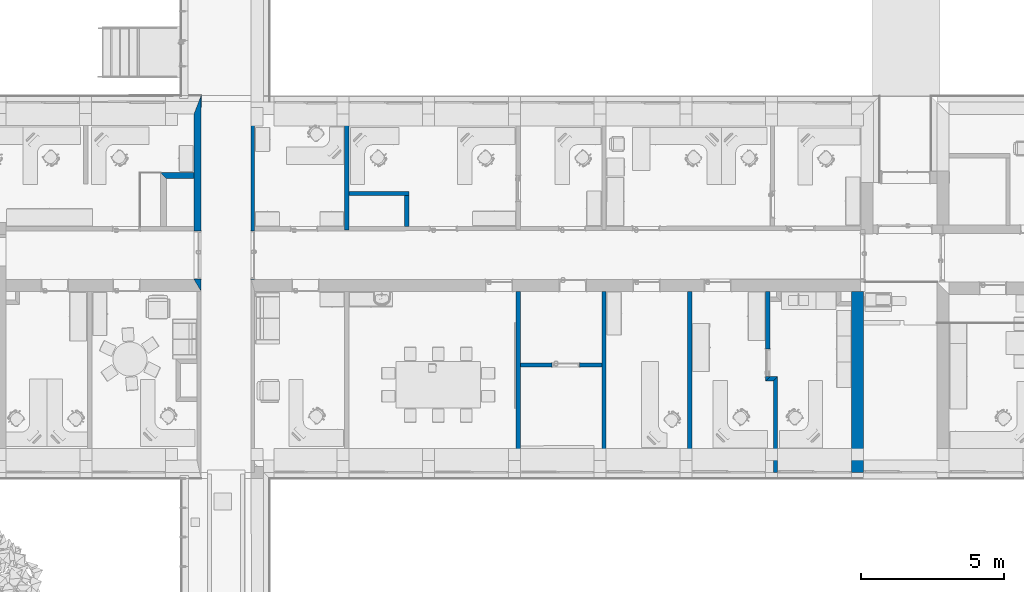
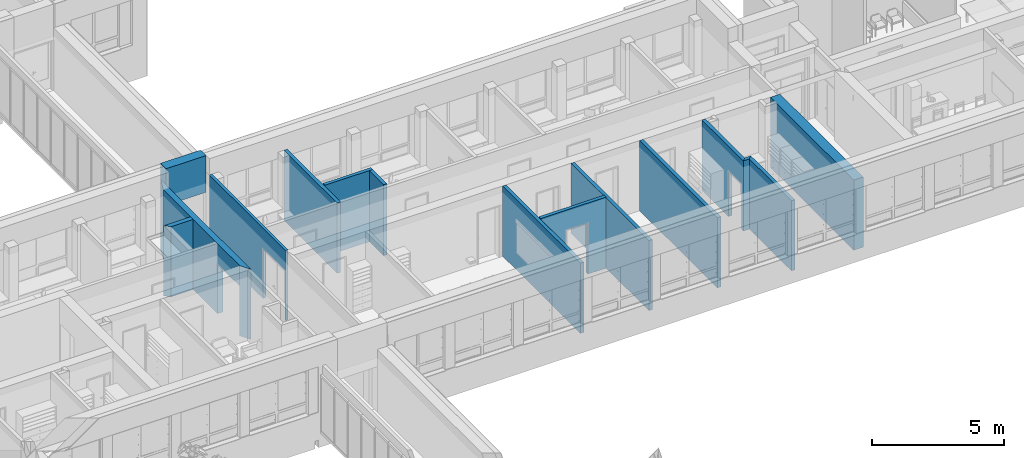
# One storey, part 15 of 194: 15 walls, 5 openings.
"""IFC2X3 building model written with IfcOpenShell, lengths in millimetres."""

import ifcopenshell
import ifcopenshell.guid

model = None  # the IFC model being written
_history = None  # IfcOwnerHistory: only IFC2X3 demands one
_inside = {}  # id of a spatial element -> (the spatial element, [elements in it])
_under = {}  # id of a project, library or spatial element -> (it, [spatial elements below it])
_declared = {}  # id of a project -> (the project, [libraries it declares])
_typed = {}  # id of a type object -> (the type object, [elements of that type])
_made_of = {}  # id of a material, layer set ... -> (it, [elements and type objects made of it])


def new_model(schema):
    """Start an empty IFC model of exactly this schema.

    Asked for "IFC4X3", IfcOpenShell would pick the latest addendum, in which some entities
    have other attributes; the version numbers below select the first issue.
    IFC2X3 requires an IfcOwnerHistory on every rooted entity: one is made here for all.
    """
    global model, _history
    if schema == "IFC4X3":
        model = ifcopenshell.file(schema_version=(4, 3, 0, 0))
    else:
        model = ifcopenshell.file(schema=schema)
    _inside.clear()
    _under.clear()
    _declared.clear()
    _typed.clear()
    _made_of.clear()
    _history = None
    if model.schema == "IFC2X3":
        org = make("IfcOrganization", Name="unknown")
        user = make(
            "IfcPersonAndOrganization",
            ThePerson=make("IfcPerson", FamilyName="unknown"),
            TheOrganization=org,
        )
        app = make(
            "IfcApplication",
            ApplicationDeveloper=org,
            Version="unknown",
            ApplicationFullName="unknown",
            ApplicationIdentifier="unknown",
        )
        _history = make(
            "IfcOwnerHistory",
            OwningUser=user,
            OwningApplication=app,
            ChangeAction="ADDED",
            CreationDate=0,
        )
    return model


def make(cls, **values):
    """One entity of the class cls with the attributes given. An attribute that is None is left unset."""
    return model.create_entity(
        cls, **{name: value for name, value in values.items() if value is not None}
    )


def entity(cls, *values):
    """Any entity or typed value of the class cls, its attributes in the order of the schema. None: left unset."""
    e = model.create_entity(cls)
    for i, value in enumerate(values):
        if value is not None:
            e[i] = value
    return e


def rooted(cls, **values):
    """An entity with a GlobalId (a new one), such as an element, a storey or a relation."""
    return make(cls, GlobalId=ifcopenshell.guid.new(), OwnerHistory=_history, **values)


def si_unit(unit_type, name, prefix=None):
    """IfcSIUnit, for example si_unit("LENGTHUNIT", "METRE", prefix="MILLI")."""
    return make("IfcSIUnit", UnitType=unit_type, Prefix=prefix, Name=name)


def converted_unit(unit_type, name, factor, base, dimensions=None, offset=None):
    """IfcConversionBasedUnit, such as the inch: factor (a typed value) times the base unit."""
    return make(
        "IfcConversionBasedUnit"
        if offset is None
        else "IfcConversionBasedUnitWithOffset",
        ConversionOffset=offset,
        Dimensions=None
        if dimensions is None
        else entity("IfcDimensionalExponents", *dimensions),
        UnitType=unit_type,
        Name=name,
        ConversionFactor=make(
            "IfcMeasureWithUnit", ValueComponent=factor, UnitComponent=base
        ),
    )


def derived_unit(unit_type, elements):
    """IfcDerivedUnit: a product of units, each with its exponent."""
    return make(
        "IfcDerivedUnit",
        Elements=[
            make("IfcDerivedUnitElement", Unit=unit, Exponent=power)
            for unit, power in elements
        ],
        UnitType=unit_type,
    )


def money_unit(currency):
    """IfcMonetaryUnit."""
    return make("IfcMonetaryUnit", Currency=currency)


def assignment(units):
    """IfcUnitAssignment: the units of a project."""
    return None if units is None else make("IfcUnitAssignment", Units=units)


def point(xyz):
    """IfcCartesianPoint."""
    return None if xyz is None else make("IfcCartesianPoint", Coordinates=xyz)


def direction(xyz):
    """IfcDirection."""
    return None if xyz is None else make("IfcDirection", DirectionRatios=xyz)


def frame(location, z_axis=None, x_axis=None):
    """IfcAxis2Placement3D, a coordinate frame: its origin and axes. An axis left out is left unset."""
    return make(
        "IfcAxis2Placement3D",
        Location=point(location),
        Axis=direction(z_axis),
        RefDirection=direction(x_axis),
    )


def frame_2d(location, x_axis=None):
    """IfcAxis2Placement2D, a coordinate frame in the plane: its origin and x axis."""
    return make(
        "IfcAxis2Placement2D", Location=point(location), RefDirection=direction(x_axis)
    )


def origin_with_axes():
    """The frame at (0, 0, 0) with the z axis (0, 0, 1) and the x axis (1, 0, 0) written out."""
    return frame((0.0, 0.0, 0.0), z_axis=(0.0, 0.0, 1.0), x_axis=(1.0, 0.0, 0.0))


def origin_2d_with_axis():
    """The frame at (0, 0) in the plane with the x axis (1, 0) written out."""
    return frame_2d((0.0, 0.0), x_axis=(1.0, 0.0))


def place(relative_to, where):
    """IfcLocalPlacement: puts the frame where relative to a parent placement (None: the world)."""
    return make(
        "IfcLocalPlacement", PlacementRelTo=relative_to, RelativePlacement=where
    )


def context(
    kind, dimensions, precision=None, world=None, true_north=None, identifier=None
):
    """IfcGeometricRepresentationContext, for example the 3D "Model" context."""
    return make(
        "IfcGeometricRepresentationContext",
        ContextIdentifier=identifier,
        ContextType=kind,
        CoordinateSpaceDimension=dimensions,
        Precision=precision,
        WorldCoordinateSystem=world,
        TrueNorth=true_north,
    )


def subcontext(parent, identifier, kind, view, scale=None):
    """IfcGeometricRepresentationSubContext, for example "Body" below "Model"."""
    return make(
        "IfcGeometricRepresentationSubContext",
        ContextIdentifier=identifier,
        ContextType=kind,
        ParentContext=parent,
        TargetScale=scale,
        TargetView=view,
    )


def project(units=None, contexts=None):
    """IfcProject with its units and contexts."""
    return rooted(
        "IfcProject",
        Name="project",
        RepresentationContexts=contexts,
        UnitsInContext=assignment(units),
    )


def spatial(cls, under=None, at=None, **own):
    """A site, building, storey or space (cls), placed at a placement, below another one or the project."""
    s = rooted(cls, ObjectPlacement=at, **own)
    if under is not None:
        _under.setdefault(under.id(), (under, []))[1].append(s)
    return s


def polyline(points):
    """IfcPolyline through the points."""
    return make("IfcPolyline", Points=[point(p) for p in points])


def profile(cls, at=None, kind="AREA", **sizes):
    """A parametric profile (cls). Its sizes go by their IFC names, for example OverallWidth=200.0."""
    return make(cls, ProfileType=kind, Position=at, **sizes)


def rectangle(**sizes):
    """IfcRectangleProfileDef."""
    return profile("IfcRectangleProfileDef", **sizes)


def outline(outer, holes=None, kind="AREA"):
    """IfcArbitraryClosedProfileDef: a profile drawn as a closed curve; with holes, ...WithVoids."""
    if holes is None:
        return make("IfcArbitraryClosedProfileDef", ProfileType=kind, OuterCurve=outer)
    return make(
        "IfcArbitraryProfileDefWithVoids",
        ProfileType=kind,
        OuterCurve=outer,
        InnerCurves=holes,
    )


def extrude(swept, where, along, depth):
    """IfcExtrudedAreaSolid: the profile swept, set in the frame where, extruded along a direction by depth."""
    return make(
        "IfcExtrudedAreaSolid",
        SweptArea=swept,
        Position=where,
        ExtrudedDirection=direction(along),
        Depth=depth,
    )


def shape(context_of_items, identifier, shape_type, items):
    """IfcShapeRepresentation: the items that make up one representation, for example the "Body"."""
    return make(
        "IfcShapeRepresentation",
        ContextOfItems=context_of_items,
        RepresentationIdentifier=identifier,
        RepresentationType=shape_type,
        Items=items,
    )


def material(Name=None, Category=None):
    """IfcMaterial."""
    return make("IfcMaterial", Name=Name, Category=Category)


def layer(
    of_material, thickness, ventilated=None, Name=None, Category=None, Priority=None
):
    """IfcMaterialLayer: one layer of a wall or slab, of a material (None: an air gap)."""
    return make(
        "IfcMaterialLayer",
        Material=of_material,
        LayerThickness=thickness,
        IsVentilated=ventilated,
        Name=Name,
        Category=Category,
        Priority=Priority,
    )


def layer_set(layers, Name=None):
    """IfcMaterialLayerSet."""
    return make("IfcMaterialLayerSet", MaterialLayers=layers, LayerSetName=Name)


def layer_usage(for_layer_set, set_direction, sense, offset, extent=None):
    """IfcMaterialLayerSetUsage: how a layer set lies in its element."""
    return make(
        "IfcMaterialLayerSetUsage",
        ForLayerSet=for_layer_set,
        LayerSetDirection=set_direction,
        DirectionSense=sense,
        OffsetFromReferenceLine=offset,
        ReferenceExtent=extent,
    )


def made_of(thing, what):
    """Note that an element or type object is made of a material, layer set ...; save() writes the relation."""
    if what is not None:
        _made_of.setdefault(what.id(), (what, []))[1].append(thing)
    return thing


def type_object(cls, material=None, **own):
    """A type object (cls), such as IfcWallType, which elements share."""
    return made_of(rooted(cls, **own), material)


def element(
    cls,
    number,
    at=None,
    inside=None,
    cuts=None,
    type_object=None,
    material=None,
    context=None,
    identifier="Body",
    shape_type=None,
    held_by="IfcProductDefinitionShape",
    body=None,
    shapes=None,
    **own,
):
    """One element of the class cls, such as IfcWall. Its Tag is "e" and its number.

    at: its placement. inside: the storey or other place that contains it. cuts: it is an
    opening in that element (IfcRelVoidsElement). A single representation is given by context,
    identifier, shape_type and body (its items); several are given by shapes. held_by: the class
    of the entity that holds the representations. save() writes the other relations.
    """
    e = rooted(cls, Tag="e%d" % number, ObjectPlacement=at, **own)
    if body is not None:
        shapes = [shape(context, identifier, shape_type, body)]
    if shapes is not None:
        e.Representation = make(held_by, Representations=shapes)
    if inside is not None:
        _inside.setdefault(inside.id(), (inside, []))[1].append(e)
    if cuts is not None:
        rooted(
            "IfcRelVoidsElement", RelatingBuildingElement=cuts, RelatedOpeningElement=e
        )
    if type_object is not None:
        _typed.setdefault(type_object.id(), (type_object, []))[1].append(e)
    return made_of(e, material)


def aggregate(whole, parts):
    """IfcRelAggregates: a whole, such as a stair, and the parts it consists of."""
    return rooted("IfcRelAggregates", RelatingObject=whole, RelatedObjects=parts)


def save(model, path):
    """Write the relations noted so far, then the file.

    IfcRelAggregates (storeys below a building ...), IfcRelContainedInSpatialStructure (elements
    in a storey), IfcRelDefinesByType, IfcRelAssociatesMaterial and IfcRelDeclares: one each for
    every whole, place, type object, material and project.
    """
    for whole, parts in _under.values():
        aggregate(whole, parts)
    for where, things in _inside.values():
        rooted(
            "IfcRelContainedInSpatialStructure",
            RelatedElements=things,
            RelatingStructure=where,
        )
    for kind, things in _typed.values():
        rooted("IfcRelDefinesByType", RelatedObjects=things, RelatingType=kind)
    for what, things in _made_of.values():
        rooted("IfcRelAssociatesMaterial", RelatedObjects=things, RelatingMaterial=what)
    for by, libraries in _declared.values():
        rooted("IfcRelDeclares", RelatingContext=by, RelatedDefinitions=libraries)
    model.write(path)


model = new_model("IFC2X3")

# Units and contexts
model_context = context("Model", 3, precision=1e-05, world=origin_with_axes(), true_north=direction((0.0, 1.0)))
body_context = subcontext(model_context, "Body", "Model", "MODEL_VIEW")
ifc_project = project(units=[si_unit("LENGTHUNIT", "METRE", prefix="MILLI"), si_unit("AREAUNIT", "SQUARE_METRE"), si_unit("VOLUMEUNIT", "CUBIC_METRE"), converted_unit("PLANEANGLEUNIT", "DEGREE", entity("IfcPlaneAngleMeasure", 0.0174532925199), si_unit("PLANEANGLEUNIT", "RADIAN"), dimensions=[0, 0, 0, 0, 0, 0, 0]), si_unit("SOLIDANGLEUNIT", "STERADIAN"), money_unit("EUR"), converted_unit("TIMEUNIT", "Year", entity("IfcTimeMeasure", 31556926.0), si_unit("TIMEUNIT", "SECOND"), dimensions=[0, 0, 1, 0, 0, 0, 0]), si_unit("MASSUNIT", "GRAM", prefix="KILO"), si_unit("THERMODYNAMICTEMPERATUREUNIT", "DEGREE_CELSIUS"), si_unit("LUMINOUSINTENSITYUNIT", "LUMEN"), si_unit("ENERGYUNIT", "JOULE", prefix="MEGA"), derived_unit("THERMALCONDUCTANCEUNIT", [(si_unit("POWERUNIT", "WATT"), 1), (si_unit("LENGTHUNIT", "METRE"), -1), (si_unit("THERMODYNAMICTEMPERATUREUNIT", "KELVIN"), -1)]), derived_unit("SPECIFICHEATCAPACITYUNIT", [(si_unit("ENERGYUNIT", "JOULE"), 1), (si_unit("MASSUNIT", "GRAM", prefix="KILO"), -1), (si_unit("THERMODYNAMICTEMPERATUREUNIT", "KELVIN"), -1)]), derived_unit("MASSDENSITYUNIT", [(si_unit("MASSUNIT", "GRAM", prefix="KILO"), 1), (si_unit("VOLUMEUNIT", "CUBIC_METRE"), -1)])], contexts=[model_context])

# Site, building, storey
site_placement = place(None, origin_with_axes())
site = spatial("IfcSite", under=ifc_project, at=site_placement, Name="Site", CompositionType="ELEMENT")
building_placement = place(site_placement, origin_with_axes())
building = spatial("IfcBuilding", under=site, at=building_placement, Name="Building", CompositionType="ELEMENT")
storey_placement = place(building_placement, frame((0.0, 0.0, 3000.0), z_axis=(0.0, 0.0, 1.0), x_axis=(1.0, 0.0, 0.0)))
storey = spatial("IfcBuildingStorey", under=building, at=storey_placement, Name="2 KORRUS", CompositionType="ELEMENT", Elevation=3000.0)

# Walls
ifc_material_1 = material(Name="Kivi -Ol.Olev Konstruktsioon")
ifc_layer_1 = layer(ifc_material_1, 150.0, ventilated="UNKNOWN")
ifc_layer_set_1 = layer_set([ifc_layer_1], Name="ol.olev ss 150")
ifc_layer_usage_1 = layer_usage(ifc_layer_set_1, "AXIS2", "POSITIVE", -150.0)
wall_type_1 = type_object("IfcWallType", Name="SW - 022", PredefinedType="NOTDEFINED")
wall_1_placement = place(storey_placement, frame((43154.2055041, 47302.325893, 0.0), z_axis=(0.0, 0.0, 1.0), x_axis=(0.000164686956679, -0.999999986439, 0.0)))
element("IfcWallStandardCase", 1, at=wall_1_placement, inside=storey, type_object=wall_type_1, material=ifc_layer_usage_1, Name="ol.olev ss 150", context=body_context, shape_type="SweptSolid", body=[
    extrude(outline(polyline([(429.975302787, -150.0), (4466.08680622, -150.0), (4466.08680622, 0.0), (430.000005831, 0.0), (429.975302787, -150.0)])), origin_with_axes(), (0.0, 0.0, 1.0), 3250.0),
])
ifc_layer_usage_2 = layer_usage(ifc_layer_set_1, "AXIS2", "NEGATIVE", 0.0)
wall_2_placement = place(storey_placement, frame((55155.6064537, 41101.6242698, 0.0), z_axis=(0.0, 0.0, 1.0), x_axis=(0.0, -1.0, 0.0)))
element("IfcWallStandardCase", 2, at=wall_2_placement, inside=storey, type_object=wall_type_1, material=ifc_layer_usage_2, Name="ol.olev ss 150", context=body_context, shape_type="SweptSolid", body=[
    extrude(outline(polyline([(420.0, -150.0), (6318.78749724, -150.0), (6318.77471067, 0.0), (420.0, 0.0), (420.0, -150.0)])), origin_with_axes(), (0.0, 0.0, 1.0), 3250.0),
])
ifc_layer_usage_3 = layer_usage(ifc_layer_set_1, "AXIS2", "POSITIVE", -150.0)
wall_3_placement = place(storey_placement, frame((49155.1743177, 41101.6242698, 0.0), z_axis=(0.0, 0.0, 1.0), x_axis=(0.0, -1.0, 0.0)))
element("IfcWallStandardCase", 3, at=wall_3_placement, inside=storey, type_object=wall_type_1, material=ifc_layer_usage_3, Name="ol.olev ss 150", context=body_context, shape_type="SweptSolid", body=[
    extrude(outline(polyline([(420.0, -150.0), (6319.29899716, -150.0), (6319.28621058, 0.0), (420.0, 0.0), (420.0, -150.0)])), origin_with_axes(), (0.0, 0.0, 1.0), 3250.0),
])
ifc_layer_2 = layer(ifc_material_1, 420.0, ventilated="UNKNOWN")
ifc_layer_set_2 = layer_set([ifc_layer_2], Name="ol.olev ss 420")
ifc_layer_usage_4 = layer_usage(ifc_layer_set_2, "AXIS2", "NEGATIVE", 0.0)
wall_4_placement = place(storey_placement, frame((61155.1743177, 41101.6242698, 0.0), z_axis=(0.0, 0.0, 1.0), x_axis=(0.0, -1.0, 0.0)))
element("IfcWallStandardCase", 4, at=wall_4_placement, inside=storey, type_object=wall_type_1, material=ifc_layer_usage_4, Name="ol.olev ss 420", context=body_context, shape_type="SweptSolid", body=[
    extrude(outline(polyline([(420.0, -420.0), (6748.2990884, -420.0), (6748.2990884, 0.0), (420.0, 0.0), (420.0, -420.0)])), origin_with_axes(), (0.0, 0.0, 1.0), 3250.0),
])
ifc_layer_usage_5 = layer_usage(ifc_layer_set_1, "AXIS2", "POSITIVE", -150.0)
wall_5_placement = place(storey_placement, frame((52155.1743177, 41101.6242698, 0.0), z_axis=(0.0, 0.0, 1.0), x_axis=(0.0, -1.0, 0.0)))
element("IfcWallStandardCase", 5, at=wall_5_placement, inside=storey, type_object=wall_type_1, material=ifc_layer_usage_5, Name="ol.olev ss 150", context=body_context, shape_type="SweptSolid", body=[
    extrude(outline(polyline([(420.0, -150.0), (6319.04326562, -150.0), (6319.03047904, 0.0), (420.0, 0.0), (420.0, -150.0)])), origin_with_axes(), (0.0, 0.0, 1.0), 3250.0),
])

# Wall, opening
ifc_layer_usage_6 = layer_usage(ifc_layer_set_1, "AXIS2", "POSITIVE", 0.0)
wall_6_placement = place(storey_placement, frame((57733.5737612, 41101.6242698, 0.0), z_axis=(0.0, 0.0, 1.0), x_axis=(0.000781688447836, -0.999999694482, 0.0)))
wall_6 = element("IfcWallStandardCase", 6, at=wall_6_placement, inside=storey, type_object=wall_type_1, material=ifc_layer_usage_6, Name="ol.olev ss 150", context=body_context, shape_type="SweptSolid", body=[
    extrude(outline(polyline([(420.000128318, 0.0), (3553.92922897, 0.0), (3403.92688897, 150.0), (420.117381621, 150.0), (420.000128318, 0.0)])), origin_with_axes(), (0.0, 0.0, 1.0), 3250.0),
])
opening_1_placement = place(wall_6_placement, frame((2918.92688897, 0.0, 0.0), z_axis=(0.0, 0.0, 1.0), x_axis=(1.0, 0.0, 0.0)))
element("IfcOpeningElement", 7, at=opening_1_placement, cuts=wall_6, Name="Siseuks * Door 22", context=body_context, shape_type="SweptSolid", body=[
    extrude(rectangle(XDim=970.0, YDim=2100.0, at=origin_2d_with_axis()), frame((0.0, -150.0, 1050.0), z_axis=(0.0, 1.0, 0.0), x_axis=(-1.0, 0.0, 0.0)), (0.0, 0.0, 1.0), 450.0),
    extrude(rectangle(XDim=1044.0, YDim=2137.0, at=origin_2d_with_axis()), frame((0.0, 0.0, 1068.5), z_axis=(0.0, 1.0, 0.0), x_axis=(-1.0, 0.0, 0.0)), (0.0, 0.0, -1.0), 150.0),
    extrude(rectangle(XDim=1044.0, YDim=2137.0, at=origin_2d_with_axis()), frame((-9.09494701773e-10, 150.0, 1068.5), z_axis=(0.0, -1.0, 0.0), x_axis=(-1.0, 0.0, 0.0)), (0.0, 0.0, -1.0), 150.0),
])

ifc_layer_3 = layer(ifc_material_1, 120.0, ventilated="UNKNOWN")
ifc_layer_set_3 = layer_set([ifc_layer_3], Name="ol.olev ss 120")
ifc_layer_usage_7 = layer_usage(ifc_layer_set_3, "AXIS2", "POSITIVE", 0.0)
wall_7_placement = place(storey_placement, frame((39734.3292711, 46872.6063721, 0.0), z_axis=(0.0, 0.0, 1.0), x_axis=(0.0, -1.0, 0.0)))
wall_7 = element("IfcWallStandardCase", 8, at=wall_7_placement, inside=storey, type_object=wall_type_1, material=ifc_layer_usage_7, Name="ol.olev ss 120", context=body_context, shape_type="SweptSolid", body=[
    extrude(outline(polyline([(0.0, 0.0), (5770.98210231, 0.0), (5770.98210231, 120.0), (0.0, 120.0), (0.0, 0.0)])), origin_with_axes(), (0.0, 0.0, 1.0), 3250.0),
])
opening_2_placement = place(wall_7_placement, frame((4911.02386288, 0.0, 0.0), z_axis=(0.0, 0.0, 1.0), x_axis=(1.0, 0.0, 0.0)))
element("IfcOpeningElement", 9, at=opening_2_placement, cuts=wall_7, Name="Siseuks * Double Door 22", context=body_context, shape_type="SweptSolid", body=[
    extrude(rectangle(XDim=1680.0, YDim=2300.0, at=origin_2d_with_axis()), frame((0.0, 120.0, 1150.0), z_axis=(0.0, 1.0, 0.0), x_axis=(-1.0, 0.0, 0.0)), (0.0, 0.0, -1.0), 360.0),
    extrude(rectangle(XDim=1754.0, YDim=2337.0, at=origin_2d_with_axis()), frame((0.0, 120.0, 1168.5), z_axis=(0.0, 1.0, 0.0), x_axis=(-1.0, 0.0, 0.0)), (0.0, 0.0, 1.0), 120.0),
    extrude(rectangle(XDim=1754.0, YDim=2337.0, at=origin_2d_with_axis()), frame((0.0, 0.0, 1168.5), z_axis=(0.0, -1.0, 0.0), x_axis=(-1.0, 0.0, 0.0)), (0.0, 0.0, 1.0), 120.0),
])

ifc_layer_usage_8 = layer_usage(ifc_layer_set_2, "AXIS2", "NEGATIVE", 0.0)
wall_8_placement = place(storey_placement, frame((37983.8520141, 47541.3066888, 0.0), z_axis=(0.0, 0.0, 1.0), x_axis=(1.0, 0.0, 0.0)))
wall_8 = element("IfcWallStandardCase", 10, at=wall_8_placement, inside=storey, type_object=wall_type_1, material=ifc_layer_usage_8, Name="ol.olev ss 420", context=body_context, shape_type="SweptSolid", body=[
    extrude(outline(polyline([(0.0, -420.0), (1750.45684985, -420.0), (1750.42030546, 0.0), (0.0, 0.0), (0.0, -420.0)])), origin_with_axes(), (0.0, 0.0, 1.0), 4000.0),
])
opening_3_placement = place(wall_8_placement, frame((879.789419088, 0.0, 0.0), z_axis=(0.0, 0.0, 1.0), x_axis=(1.0, 0.0, 0.0)))
element("IfcOpeningElement", 11, at=opening_3_placement, cuts=wall_8, Name="Background;  Objekti nimi: Rectangular Door Opening 22", context=body_context, shape_type="SweptSolid", body=[
    extrude(rectangle(XDim=1741.26177275, YDim=2300.0, at=origin_2d_with_axis()), frame((0.0, -420.0, 1150.0), z_axis=(0.0, -1.0, 0.0), x_axis=(1.0, 0.0, 0.0)), (0.0, 0.0, -1.0), 1260.0),
])

ifc_layer_4 = layer(ifc_material_1, 250.0, ventilated="UNKNOWN")
ifc_layer_set_4 = layer_set([ifc_layer_4], Name="ol.olev ss 250")
ifc_layer_usage_9 = layer_usage(ifc_layer_set_4, "AXIS2", "POSITIVE", 0.0)
wall_type_2 = type_object("IfcWallType", Name="SW - 036", PredefinedType="NOTDEFINED")
wall_9_placement = place(storey_placement, frame((37983.8520141, 41101.6242698, 0.0), z_axis=(0.0, 0.0, 1.0), x_axis=(0.0, 1.0, 0.0)))
wall_9 = element("IfcWallStandardCase", 12, at=wall_9_placement, inside=storey, type_object=wall_type_2, material=ifc_layer_usage_9, Name="ol.olev ss 250", context=body_context, shape_type="SweptSolid", body=[
    extrude(outline(polyline([(-420.0, 0.0), (6439.682419, 0.0), (5789.28043138, 250.0), (0.0, 250.0), (-420.0, 0.0)])), origin_with_axes(), (0.0, 0.0, 1.0), 3250.0),
])
opening_4_placement = place(wall_9_placement, frame((848.558036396, 0.0, 0.0), z_axis=(0.0, 0.0, 1.0), x_axis=(1.0, 0.0, 0.0)))
element("IfcOpeningElement", 13, at=opening_4_placement, cuts=wall_9, Name="Siseuks * Double Door 22", context=body_context, shape_type="SweptSolid", body=[
    extrude(rectangle(XDim=1680.0, YDim=2300.0, at=origin_2d_with_axis()), frame((0.0, 250.0, 1150.0), z_axis=(0.0, -1.0, 0.0), x_axis=(1.0, 0.0, 0.0)), (0.0, 0.0, 1.0), 750.0),
    extrude(rectangle(XDim=1754.0, YDim=2337.0, at=origin_2d_with_axis()), frame((0.0, 250.0, 1168.5), z_axis=(0.0, -1.0, 0.0), x_axis=(1.0, 0.0, 0.0)), (0.0, 0.0, -1.0), 250.0),
    extrude(rectangle(XDim=1754.0, YDim=2337.0, at=origin_2d_with_axis()), frame((0.0, 0.0, 1168.5), z_axis=(0.0, 1.0, 0.0), x_axis=(1.0, 0.0, 0.0)), (0.0, 0.0, -1.0), 250.0),
])

# Walls
ifc_layer_usage_10 = layer_usage(ifc_layer_set_1, "AXIS2", "NEGATIVE", 0.0)
wall_type_3 = type_object("IfcWallType", Name="SW - 024", PredefinedType="NOTDEFINED")
wall_10_placement = place(storey_placement, frame((58155.1744416, 37548.0300491, 0.0), z_axis=(0.0, 0.0, 1.0), x_axis=(0.0, -1.0, 0.0)))
element("IfcWallStandardCase", 14, at=wall_10_placement, inside=storey, type_object=wall_type_3, material=ifc_layer_usage_10, Name="ol.olev ss 150", context=body_context, shape_type="SweptSolid", body=[
    extrude(outline(polyline([(0.119593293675, -150.0), (3194.90580833, -150.0), (3194.90580833, 0.0), (-150.000047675, 0.0), (0.119593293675, -150.0)])), origin_with_axes(), (0.0, 0.0, 1.0), 3250.0),
])
ifc_layer_usage_11 = layer_usage(ifc_layer_set_1, "AXIS2", "POSITIVE", 0.0)
wall_type_4 = type_object("IfcWallType", Name="SW - 023", PredefinedType="NOTDEFINED")
wall_11_placement = place(storey_placement, frame((57736.3518266, 37547.6961266, 0.0), z_axis=(0.0, 0.0, 1.0), x_axis=(0.999999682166, 0.000797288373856, 0.0)))
element("IfcWallStandardCase", 15, at=wall_11_placement, inside=storey, type_object=wall_type_4, material=ifc_layer_usage_11, Name="ol.olev ss 150", context=body_context, shape_type="SweptSolid", body=[
    extrude(outline(polyline([(1.13686837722e-10, 0.0), (268.82270035, 0.0), (418.942341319, 150.000000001), (150.002340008, 150.0), (1.13686837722e-10, 0.0)])), origin_with_axes(), (0.0, 0.0, 1.0), 3250.0),
])
ifc_layer_5 = layer(ifc_material_1, 200.0, ventilated="UNKNOWN")
ifc_layer_set_5 = layer_set([ifc_layer_5], Name="ol.olev ss 200")
ifc_layer_usage_12 = layer_usage(ifc_layer_set_5, "AXIS2", "POSITIVE", -200.0)
wall_12_placement = place(storey_placement, frame((36562.6842923, 44838.6870986, 0.0), z_axis=(0.0, 0.0, 1.0), x_axis=(1.0, 0.0, 0.0)))
element("IfcWallStandardCase", 16, at=wall_12_placement, inside=storey, type_object=wall_type_4, material=ifc_layer_usage_12, Name="ol.olev ss 200", context=body_context, shape_type="SweptSolid", body=[
    extrude(outline(polyline([(200.0, -200.0), (1171.16772179, -200.0), (1171.16772179, 0.0), (0.0, 0.0), (200.0, -200.0)])), origin_with_axes(), (0.0, 0.0, 1.0), 3250.0),
])
ifc_material_2 = material(Name="Kivi -  Uus Konstruktsioon")
ifc_layer_6 = layer(ifc_material_2, 150.0, ventilated="UNKNOWN")
ifc_layer_set_6 = layer_set([ifc_layer_6], Name="uus ss 150")
ifc_layer_usage_13 = layer_usage(ifc_layer_set_6, "AXIS2", "POSITIVE", 0.0)
wall_type_5 = type_object("IfcWallType", Name="SS-1", PredefinedType="NOTDEFINED")
wall_13_placement = place(storey_placement, frame((45256.0811481, 44186.1255139, 0.0), z_axis=(0.0, 0.0, 1.0), x_axis=(-0.999999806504, -0.000622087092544, 0.0)))
element("IfcWallStandardCase", 17, at=wall_13_placement, inside=storey, type_object=wall_type_5, material=ifc_layer_usage_13, Name="sahti sein", context=body_context, shape_type="SweptSolid", body=[
    extrude(outline(polyline([(0.0, 0.0), (2101.3626378, 0.0), (2101.43124783, 150.000000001), (1.13686837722e-10, 150.0), (0.0, 0.0)])), origin_with_axes(), (0.0, 0.0, 1.0), 3294.8304041),
])
ifc_layer_usage_14 = layer_usage(ifc_layer_set_6, "AXIS2", "NEGATIVE", 0.0)
wall_14_placement = place(storey_placement, frame((45255.0811483, 44186.1261116, 0.0), z_axis=(0.0, 0.0, 1.0), x_axis=(-0.000597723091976, -0.999999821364, 0.0)))
element("IfcWallStandardCase", 18, at=wall_14_placement, inside=storey, type_object=wall_type_5, material=ifc_layer_usage_14, Name="sahti sein", context=body_context, shape_type="SweptSolid", body=[
    extrude(outline(polyline([(150.184303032, -150.0), (1231.29083551, -150.0), (1231.07881934, 1.13686837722e-10), (150.001331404, 0.0), (150.184303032, -150.0)])), origin_with_axes(), (0.0, 0.0, 1.0), 3294.8304041),
])

# Wall, opening
ifc_layer_usage_15 = layer_usage(ifc_layer_set_6, "AXIS2", "NEGATIVE", 0.0)
wall_15_placement = place(storey_placement, frame((49155.1743177, 38181.6242698, 0.0), z_axis=(0.0, 0.0, 1.0), x_axis=(1.0, 0.0, 0.0)))
wall_15 = element("IfcWallStandardCase", 19, at=wall_15_placement, inside=storey, type_object=wall_type_5, material=ifc_layer_usage_15, Name="sahti sein", context=body_context, shape_type="SweptSolid", body=[
    extrude(outline(polyline([(0.0, -150.0), (2850.0, -150.0), (2850.0, 0.0), (0.0, 0.0), (0.0, -150.0)])), origin_with_axes(), (0.0, 0.0, 1.0), 3294.8304041),
])
opening_5_placement = place(wall_15_placement, frame((1584.04536966, 0.0, 0.0), z_axis=(0.0, 0.0, 1.0), x_axis=(1.0, 0.0, 0.0)))
element("IfcOpeningElement", 20, at=opening_5_placement, cuts=wall_15, Name="Siseuks * Door 22", context=body_context, shape_type="SweptSolid", body=[
    extrude(rectangle(XDim=950.0, YDim=2370.0, at=origin_2d_with_axis()), frame((0.0, -150.0, 1185.0), z_axis=(0.0, 1.0, 0.0), x_axis=(1.0, 0.0, 0.0)), (0.0, 0.0, 1.0), 450.0),
    extrude(rectangle(XDim=1024.0, YDim=2407.0, at=origin_2d_with_axis()), frame((0.0, -150.0, 1203.5), z_axis=(0.0, 1.0, 0.0), x_axis=(1.0, 0.0, 0.0)), (0.0, 0.0, -1.0), 150.0),
    extrude(rectangle(XDim=1024.0, YDim=2407.0, at=origin_2d_with_axis()), frame((0.0, 0.0, 1203.5), z_axis=(0.0, -1.0, 0.0), x_axis=(1.0, 0.0, 0.0)), (0.0, 0.0, -1.0), 150.0),
])

save(model, "model.ifc")
